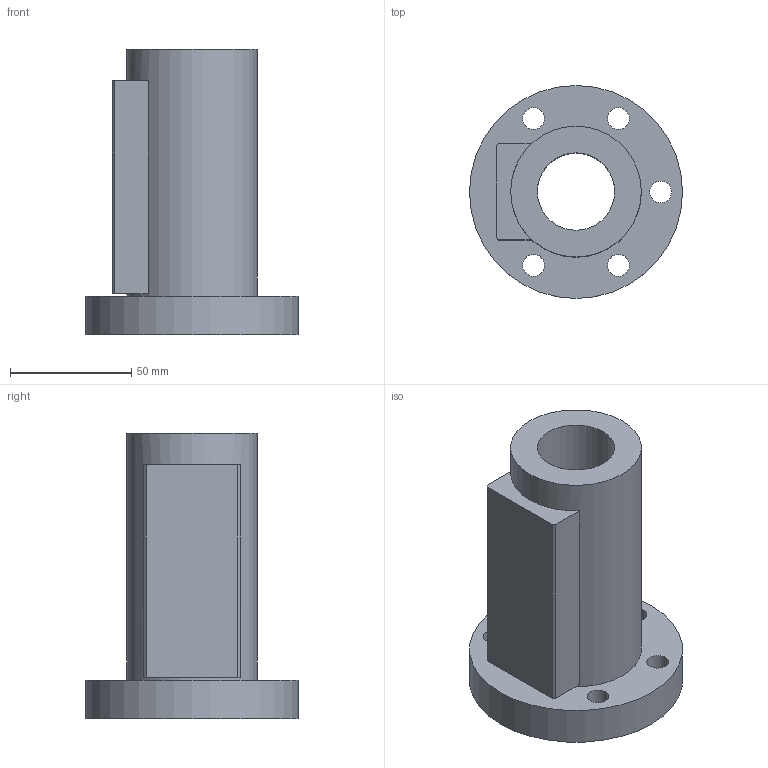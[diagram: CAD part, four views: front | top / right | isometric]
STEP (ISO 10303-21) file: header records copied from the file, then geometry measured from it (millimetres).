
FILE_DESCRIPTION(/* description */ (''),/* implementation_level */ '2;1');
FILE_NAME(/* name */ '32-25B1',/* time_stamp */ '2006-07-31T10:11:13+08:00',/* author */ (''),/* organization */ (''),/* preprocessor_version */ 'ST-DEVELOPER v9',/* originating_system */ 'UGS - NX 4.0',/* authorisation */ '');
FILE_SCHEMA (('CONFIG_CONTROL_DESIGN'));
Length unit declared in the file: millimetre
Products named in the file (1): 32-25B1
Bounding box: 88 x 88 x 118 mm (x, y, z)
Volume: 257721.9 mm3; surface area: 49203.8 mm2
Topology: 1 solids, 1 shells, 28 faces, 61 edges, 42 vertices
Faces by surface type: plane 15, cylinder 13
Full cylindrical faces by diameter (mm): 9 x5, 14 x5, 32 x1, 54 x1, 88 x1
Entity records: 794 total; most frequent: DIRECTION 130, CARTESIAN_POINT 111, ORIENTED_EDGE 88, EDGE_LOOP 60, AXIS2_PLACEMENT_3D 57, FACE_BOUND 45, EDGE_CURVE 44, VERTEX_POINT 38
